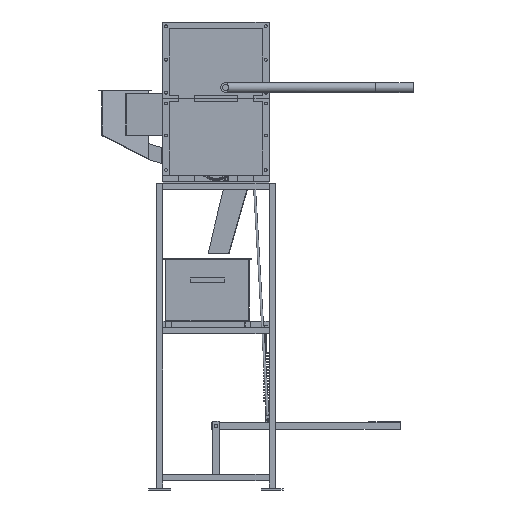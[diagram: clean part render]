
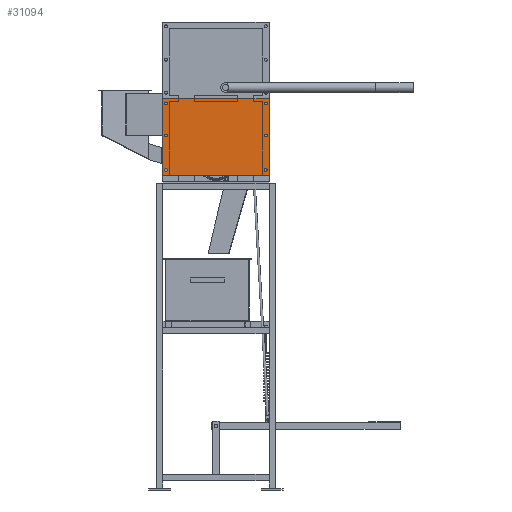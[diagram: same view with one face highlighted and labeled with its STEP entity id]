
A CAD part, front view. The second image highlights one B-rep face of the part: STEP entity #31094.
In plain terms, the highlighted planar face has unit normal (0, -1, 0).
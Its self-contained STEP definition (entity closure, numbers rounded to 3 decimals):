
#31058 = EDGE_CURVE('',#31059,#31061,#31063,.T.);
#31059 = VERTEX_POINT('',#31060);
#31060 = CARTESIAN_POINT('',(-170.,-47.72,1008.4));
#31061 = VERTEX_POINT('',#31062);
#31062 = CARTESIAN_POINT('',(-170.,-47.72,1253.45));
#31063 = LINE('',#31064,#31065);
#31064 = CARTESIAN_POINT('',(-170.,-47.72,1008.4));
#31065 = VECTOR('',#31066,1.);
#31066 = DIRECTION('',(0.,0.,1.));
#31094 = ADVANCED_FACE('',(#31095,#31120,#31131,#31142,#31153,#31164,
    #31175),#31186,.F.);
#31095 = FACE_BOUND('',#31096,.F.);
#31096 = EDGE_LOOP('',(#31097,#31105,#31106,#31114));
#31097 = ORIENTED_EDGE('',*,*,#31098,.F.);
#31098 = EDGE_CURVE('',#31059,#31099,#31101,.T.);
#31099 = VERTEX_POINT('',#31100);
#31100 = CARTESIAN_POINT('',(170.,-47.72,1008.4));
#31101 = LINE('',#31102,#31103);
#31102 = CARTESIAN_POINT('',(-170.,-47.72,1008.4));
#31103 = VECTOR('',#31104,1.);
#31104 = DIRECTION('',(1.,0.,-0.));
#31105 = ORIENTED_EDGE('',*,*,#31058,.T.);
#31106 = ORIENTED_EDGE('',*,*,#31107,.T.);
#31107 = EDGE_CURVE('',#31061,#31108,#31110,.T.);
#31108 = VERTEX_POINT('',#31109);
#31109 = CARTESIAN_POINT('',(170.,-47.72,1253.45));
#31110 = LINE('',#31111,#31112);
#31111 = CARTESIAN_POINT('',(-170.,-47.72,1253.45));
#31112 = VECTOR('',#31113,1.);
#31113 = DIRECTION('',(1.,0.,-0.));
#31114 = ORIENTED_EDGE('',*,*,#31115,.F.);
#31115 = EDGE_CURVE('',#31099,#31108,#31116,.T.);
#31116 = LINE('',#31117,#31118);
#31117 = CARTESIAN_POINT('',(170.,-47.72,1008.4));
#31118 = VECTOR('',#31119,1.);
#31119 = DIRECTION('',(0.,0.,1.));
#31120 = FACE_BOUND('',#31121,.F.);
#31121 = EDGE_LOOP('',(#31122));
#31122 = ORIENTED_EDGE('',*,*,#31123,.F.);
#31123 = EDGE_CURVE('',#31124,#31124,#31126,.T.);
#31124 = VERTEX_POINT('',#31125);
#31125 = CARTESIAN_POINT('',(-160.,-47.72,1028.05));
#31126 = CIRCLE('',#31127,3.05);
#31127 = AXIS2_PLACEMENT_3D('',#31128,#31129,#31130);
#31128 = CARTESIAN_POINT('',(-160.,-47.72,1025.));
#31129 = DIRECTION('',(0.,1.,0.));
#31130 = DIRECTION('',(0.,-0.,1.));
#31131 = FACE_BOUND('',#31132,.F.);
#31132 = EDGE_LOOP('',(#31133));
#31133 = ORIENTED_EDGE('',*,*,#31134,.F.);
#31134 = EDGE_CURVE('',#31135,#31135,#31137,.T.);
#31135 = VERTEX_POINT('',#31136);
#31136 = CARTESIAN_POINT('',(-160.,-47.72,1138.05));
#31137 = CIRCLE('',#31138,3.05);
#31138 = AXIS2_PLACEMENT_3D('',#31139,#31140,#31141);
#31139 = CARTESIAN_POINT('',(-160.,-47.72,1135.));
#31140 = DIRECTION('',(0.,1.,0.));
#31141 = DIRECTION('',(0.,-0.,1.));
#31142 = FACE_BOUND('',#31143,.F.);
#31143 = EDGE_LOOP('',(#31144));
#31144 = ORIENTED_EDGE('',*,*,#31145,.F.);
#31145 = EDGE_CURVE('',#31146,#31146,#31148,.T.);
#31146 = VERTEX_POINT('',#31147);
#31147 = CARTESIAN_POINT('',(-160.,-47.72,1240.55));
#31148 = CIRCLE('',#31149,3.05);
#31149 = AXIS2_PLACEMENT_3D('',#31150,#31151,#31152);
#31150 = CARTESIAN_POINT('',(-160.,-47.72,1237.5));
#31151 = DIRECTION('',(0.,1.,0.));
#31152 = DIRECTION('',(0.,-0.,1.));
#31153 = FACE_BOUND('',#31154,.F.);
#31154 = EDGE_LOOP('',(#31155));
#31155 = ORIENTED_EDGE('',*,*,#31156,.F.);
#31156 = EDGE_CURVE('',#31157,#31157,#31159,.T.);
#31157 = VERTEX_POINT('',#31158);
#31158 = CARTESIAN_POINT('',(160.,-47.72,1028.05));
#31159 = CIRCLE('',#31160,3.05);
#31160 = AXIS2_PLACEMENT_3D('',#31161,#31162,#31163);
#31161 = CARTESIAN_POINT('',(160.,-47.72,1025.));
#31162 = DIRECTION('',(0.,1.,0.));
#31163 = DIRECTION('',(0.,-0.,1.));
#31164 = FACE_BOUND('',#31165,.F.);
#31165 = EDGE_LOOP('',(#31166));
#31166 = ORIENTED_EDGE('',*,*,#31167,.F.);
#31167 = EDGE_CURVE('',#31168,#31168,#31170,.T.);
#31168 = VERTEX_POINT('',#31169);
#31169 = CARTESIAN_POINT('',(160.,-47.72,1138.05));
#31170 = CIRCLE('',#31171,3.05);
#31171 = AXIS2_PLACEMENT_3D('',#31172,#31173,#31174);
#31172 = CARTESIAN_POINT('',(160.,-47.72,1135.));
#31173 = DIRECTION('',(0.,1.,0.));
#31174 = DIRECTION('',(0.,-0.,1.));
#31175 = FACE_BOUND('',#31176,.F.);
#31176 = EDGE_LOOP('',(#31177));
#31177 = ORIENTED_EDGE('',*,*,#31178,.F.);
#31178 = EDGE_CURVE('',#31179,#31179,#31181,.T.);
#31179 = VERTEX_POINT('',#31180);
#31180 = CARTESIAN_POINT('',(160.,-47.72,1240.55));
#31181 = CIRCLE('',#31182,3.05);
#31182 = AXIS2_PLACEMENT_3D('',#31183,#31184,#31185);
#31183 = CARTESIAN_POINT('',(160.,-47.72,1237.5));
#31184 = DIRECTION('',(0.,1.,0.));
#31185 = DIRECTION('',(0.,-0.,1.));
#31186 = PLANE('',#31187);
#31187 = AXIS2_PLACEMENT_3D('',#31188,#31189,#31190);
#31188 = CARTESIAN_POINT('',(-170.,-47.72,1008.4));
#31189 = DIRECTION('',(-0.,1.,0.));
#31190 = DIRECTION('',(0.,0.,1.));
